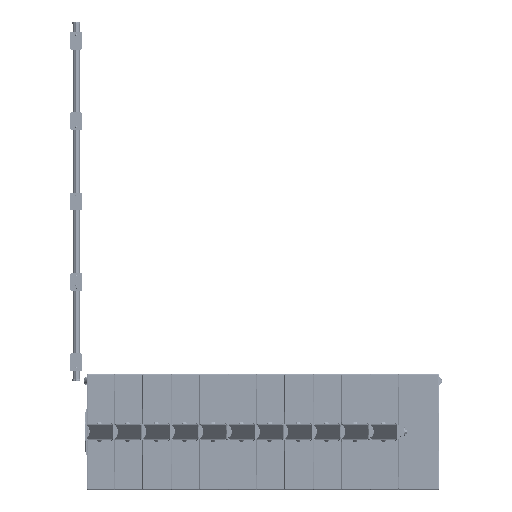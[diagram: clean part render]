
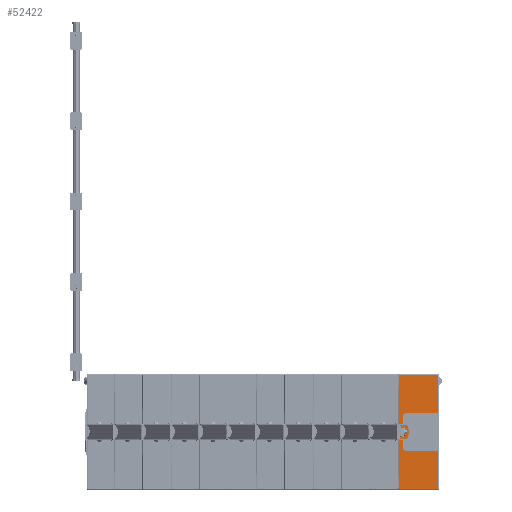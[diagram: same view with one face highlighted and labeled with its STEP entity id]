
A CAD part, front view. The second image highlights one B-rep face of the part: STEP entity #52422.
In plain terms, the highlighted planar face has unit normal (0, -1, 0).
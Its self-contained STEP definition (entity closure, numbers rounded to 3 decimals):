
#1088 = AXIS2_PLACEMENT_3D ( 'NONE', #17386, #60211, #12189 ) ;
#1885 = CARTESIAN_POINT ( 'NONE',  ( 110.5, -19., 315. ) ) ;
#1893 = VERTEX_POINT ( 'NONE', #40782 ) ;
#1973 = EDGE_CURVE ( 'NONE', #52208, #17078, #18340, .T. ) ;
#3296 = DIRECTION ( 'NONE',  ( 0., 0., 1. ) ) ;
#3949 = ORIENTED_EDGE ( 'NONE', *, *, #37786, .T. ) ;
#5056 = DIRECTION ( 'NONE',  ( 0., 0., 1. ) ) ;
#5576 = ORIENTED_EDGE ( 'NONE', *, *, #6220, .T. ) ;
#6220 = EDGE_CURVE ( 'NONE', #34152, #1893, #32697, .T. ) ;
#6575 = FACE_OUTER_BOUND ( 'NONE', #27506, .T. ) ;
#7404 = AXIS2_PLACEMENT_3D ( 'NONE', #23980, #30303, #40801 ) ;
#8201 = CARTESIAN_POINT ( 'NONE',  ( 110.5, -19., 315. ) ) ;
#9597 = CARTESIAN_POINT ( 'NONE',  ( -105.5, -19., -320. ) ) ;
#10550 = ORIENTED_EDGE ( 'NONE', *, *, #40379, .T. ) ;
#10626 = DIRECTION ( 'NONE',  ( 0., 0., 1. ) ) ;
#11615 = VECTOR ( 'NONE', #3296, 1000. ) ;
#12189 = DIRECTION ( 'NONE',  ( 0., 0., 1. ) ) ;
#12753 = DIRECTION ( 'NONE',  ( 0., 0., 1. ) ) ;
#14808 = CIRCLE ( 'NONE', #38361, 5. ) ;
#14884 = DIRECTION ( 'NONE',  ( 0., -1., 0. ) ) ;
#15206 = ORIENTED_EDGE ( 'NONE', *, *, #63372, .T. ) ;
#15849 = DIRECTION ( 'NONE',  ( 0., -1., 0. ) ) ;
#17078 = VERTEX_POINT ( 'NONE', #55801 ) ;
#17207 = DIRECTION ( 'NONE',  ( 0., -1., 0. ) ) ;
#17386 = CARTESIAN_POINT ( 'NONE',  ( -105.5, -19., 315. ) ) ;
#17544 = CARTESIAN_POINT ( 'NONE',  ( 105.5, -19., -320. ) ) ;
#18340 = LINE ( 'NONE', #8201, #11615 ) ;
#19196 = CARTESIAN_POINT ( 'NONE',  ( 110.5, -19., 38.584 ) ) ;
#22658 = ORIENTED_EDGE ( 'NONE', *, *, #51485, .T. ) ;
#22911 = LINE ( 'NONE', #1885, #60016 ) ;
#23575 = LINE ( 'NONE', #34443, #64738 ) ;
#23980 = CARTESIAN_POINT ( 'NONE',  ( -105.5, -19., -315. ) ) ;
#24447 = CIRCLE ( 'NONE', #50248, 5. ) ;
#25319 = CARTESIAN_POINT ( 'NONE',  ( -105.5, -19., 320. ) ) ;
#26451 = CARTESIAN_POINT ( 'NONE',  ( 105.5, -19., -315. ) ) ;
#27081 = CIRCLE ( 'NONE', #56269, 50. ) ;
#27506 = EDGE_LOOP ( 'NONE', ( #40664, #53715, #15206, #62753, #52369, #22658, #5576, #10550, #64850, #3949 ) ) ;
#28180 = CARTESIAN_POINT ( 'NONE',  ( 105.5, -19., 320. ) ) ;
#30303 = DIRECTION ( 'NONE',  ( 0., -1., 0. ) ) ;
#31950 = VERTEX_POINT ( 'NONE', #28180 ) ;
#32526 = CARTESIAN_POINT ( 'NONE',  ( 110.5, -19., -315. ) ) ;
#32697 = LINE ( 'NONE', #40034, #33039 ) ;
#32947 = VERTEX_POINT ( 'NONE', #38090 ) ;
#33039 = VECTOR ( 'NONE', #48494, 1000. ) ;
#33375 = CARTESIAN_POINT ( 'NONE',  ( -105.5, -19., 315. ) ) ;
#34152 = VERTEX_POINT ( 'NONE', #62469 ) ;
#34443 = CARTESIAN_POINT ( 'NONE',  ( -105.5, -19., -320. ) ) ;
#36439 = VERTEX_POINT ( 'NONE', #19196 ) ;
#37049 = EDGE_CURVE ( 'NONE', #17078, #36439, #27081, .T. ) ;
#37786 = EDGE_CURVE ( 'NONE', #66472, #52208, #14808, .T. ) ;
#38090 = CARTESIAN_POINT ( 'NONE',  ( -105.5, -19., 320. ) ) ;
#38361 = AXIS2_PLACEMENT_3D ( 'NONE', #26451, #14884, #5056 ) ;
#38748 = CARTESIAN_POINT ( 'NONE',  ( 110.5, -19., 315. ) ) ;
#38987 = DIRECTION ( 'NONE',  ( 0., 0., 1. ) ) ;
#39007 = DIRECTION ( 'NONE',  ( 1., 0., 0. ) ) ;
#40034 = CARTESIAN_POINT ( 'NONE',  ( -110.5, -19., 315. ) ) ;
#40379 = EDGE_CURVE ( 'NONE', #1893, #58819, #66752, .T. ) ;
#40664 = ORIENTED_EDGE ( 'NONE', *, *, #1973, .T. ) ;
#40782 = CARTESIAN_POINT ( 'NONE',  ( -110.5, -19., -315. ) ) ;
#40801 = DIRECTION ( 'NONE',  ( 0., 0., 1. ) ) ;
#42536 = CARTESIAN_POINT ( 'NONE',  ( 105.5, -19., 315. ) ) ;
#42716 = AXIS2_PLACEMENT_3D ( 'NONE', #42536, #15849, #10626 ) ;
#46715 = CARTESIAN_POINT ( 'NONE',  ( 142.3, -19., 0. ) ) ;
#47174 = CIRCLE ( 'NONE', #42716, 5. ) ;
#48494 = DIRECTION ( 'NONE',  ( 0., 0., -1. ) ) ;
#50248 = AXIS2_PLACEMENT_3D ( 'NONE', #33375, #17207, #38987 ) ;
#50487 = VERTEX_POINT ( 'NONE', #38748 ) ;
#51485 = EDGE_CURVE ( 'NONE', #32947, #34152, #24447, .T. ) ;
#52208 = VERTEX_POINT ( 'NONE', #32526 ) ;
#52369 = ORIENTED_EDGE ( 'NONE', *, *, #63537, .T. ) ;
#52422 = ADVANCED_FACE ( 'NONE', ( #6575 ), #65473, .F. ) ;
#53042 = DIRECTION ( 'NONE',  ( 0., 0., 1. ) ) ;
#53715 = ORIENTED_EDGE ( 'NONE', *, *, #37049, .T. ) ;
#55801 = CARTESIAN_POINT ( 'NONE',  ( 110.5, -19., -38.584 ) ) ;
#56269 = AXIS2_PLACEMENT_3D ( 'NONE', #46715, #68113, #53042 ) ;
#57468 = EDGE_CURVE ( 'NONE', #50487, #31950, #47174, .T. ) ;
#58819 = VERTEX_POINT ( 'NONE', #9597 ) ;
#59185 = EDGE_CURVE ( 'NONE', #58819, #66472, #23575, .T. ) ;
#60016 = VECTOR ( 'NONE', #12753, 1000. ) ;
#60211 = DIRECTION ( 'NONE',  ( 0., 1., 0. ) ) ;
#62469 = CARTESIAN_POINT ( 'NONE',  ( -110.5, -19., 315. ) ) ;
#62753 = ORIENTED_EDGE ( 'NONE', *, *, #57468, .T. ) ;
#62842 = LINE ( 'NONE', #25319, #67896 ) ;
#63372 = EDGE_CURVE ( 'NONE', #36439, #50487, #22911, .T. ) ;
#63537 = EDGE_CURVE ( 'NONE', #31950, #32947, #62842, .T. ) ;
#64738 = VECTOR ( 'NONE', #39007, 1000. ) ;
#64850 = ORIENTED_EDGE ( 'NONE', *, *, #59185, .T. ) ;
#65473 = PLANE ( 'NONE',  #1088 ) ;
#66472 = VERTEX_POINT ( 'NONE', #17544 ) ;
#66752 = CIRCLE ( 'NONE', #7404, 5. ) ;
#67764 = DIRECTION ( 'NONE',  ( -1., 0., 0. ) ) ;
#67896 = VECTOR ( 'NONE', #67764, 1000. ) ;
#68113 = DIRECTION ( 'NONE',  ( 0., 1., 0. ) ) ;
